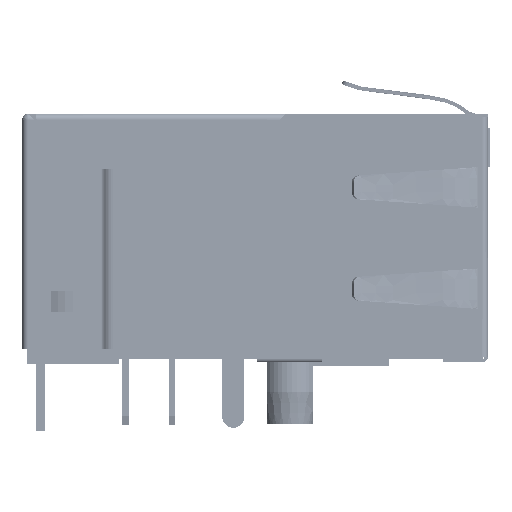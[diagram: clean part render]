
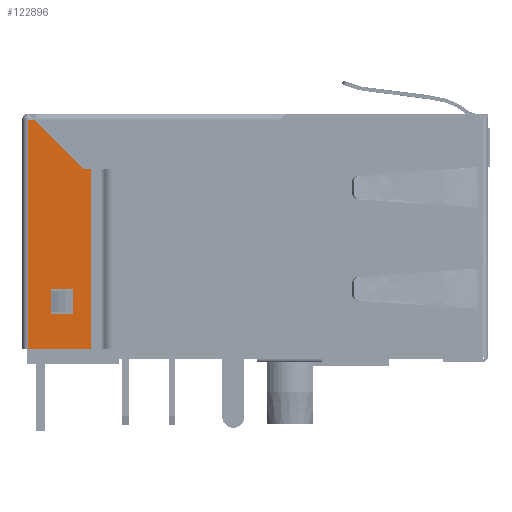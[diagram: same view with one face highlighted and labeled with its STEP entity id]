
A CAD part, left-side view. The second image highlights one B-rep face of the part: STEP entity #122896.
In plain terms, the highlighted planar face has unit normal (-1, 0, 0).
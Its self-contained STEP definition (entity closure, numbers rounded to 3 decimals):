
#116302=DIRECTION('',(0.,-1.,0.));
#116303=VECTOR('',#116302,0.359);
#116304=CARTESIAN_POINT('',(-15.25,-11.941,-6.25));
#116305=LINE('',#116304,#116303);
#116314=CARTESIAN_POINT('',(-15.25,-11.941,-6.25));
#116884=DIRECTION('',(0.,0.,1.));
#116885=VECTOR('',#116884,1.1);
#116886=CARTESIAN_POINT('',(-15.25,-9.9,3.05));
#116887=LINE('',#116886,#116885);
#116938=DIRECTION('',(0.,0.,1.));
#116939=VECTOR('',#116938,0.15);
#116940=CARTESIAN_POINT('',(-15.25,-9.9,4.15));
#116941=LINE('',#116940,#116939);
#116942=DIRECTION('',(0.,0.707,0.707));
#116943=VECTOR('',#116942,3.748);
#116944=CARTESIAN_POINT('',(-15.25,-11.941,-6.25));
#116945=LINE('',#116944,#116943);
#116946=DIRECTION('',(0.,1.,0.));
#116947=VECTOR('',#116946,0.391);
#116948=CARTESIAN_POINT('',(-15.25,-9.291,-3.6));
#116949=LINE('',#116948,#116947);
#116950=DIRECTION('',(0.,-1.,0.));
#116951=VECTOR('',#116950,3.4);
#116952=CARTESIAN_POINT('',(-15.25,-8.9,6.2));
#116953=LINE('',#116952,#116951);
#116958=DIRECTION('',(0.,0.,1.));
#116959=VECTOR('',#116958,12.45);
#116960=CARTESIAN_POINT('',(-15.25,-12.3,-6.25));
#116961=LINE('',#116960,#116959);
#116984=DIRECTION('',(0.,0.,-1.));
#116985=VECTOR('',#116984,9.8);
#116986=CARTESIAN_POINT('',(-15.25,-8.9,6.2));
#116987=LINE('',#116986,#116985);
#120314=DIRECTION('',(0.,-1.,0.));
#120315=VECTOR('',#120314,1.2);
#120316=CARTESIAN_POINT('',(-15.25,-9.9,4.3));
#120317=LINE('',#120316,#120315);
#120322=DIRECTION('',(0.,0.,-1.));
#120323=VECTOR('',#120322,1.4);
#120324=CARTESIAN_POINT('',(-15.25,-11.1,4.3));
#120325=LINE('',#120324,#120323);
#120330=DIRECTION('',(0.,1.,0.));
#120331=VECTOR('',#120330,1.2);
#120332=CARTESIAN_POINT('',(-15.25,-11.1,2.9));
#120333=LINE('',#120332,#120331);
#120342=DIRECTION('',(0.,0.,1.));
#120343=VECTOR('',#120342,0.15);
#120344=CARTESIAN_POINT('',(-15.25,-9.9,2.9));
#120345=LINE('',#120344,#120343);
#120964=CARTESIAN_POINT('',(-15.25,-12.3,-6.25));
#120965=VERTEX_POINT('',#120964);
#120966=VERTEX_POINT('',#116314);
#120972=CARTESIAN_POINT('',(-15.25,-9.291,-3.6));
#120973=VERTEX_POINT('',#120972);
#120988=CARTESIAN_POINT('',(-15.25,-12.3,6.2));
#120989=VERTEX_POINT('',#120988);
#120990=CARTESIAN_POINT('',(-15.25,-8.9,-3.6));
#120991=VERTEX_POINT('',#120990);
#120992=CARTESIAN_POINT('',(-15.25,-8.9,6.2));
#120993=VERTEX_POINT('',#120992);
#120994=CARTESIAN_POINT('',(-15.25,-9.9,2.9));
#120995=CARTESIAN_POINT('',(-15.25,-9.9,3.05));
#120996=VERTEX_POINT('',#120994);
#120997=VERTEX_POINT('',#120995);
#120998=CARTESIAN_POINT('',(-15.25,-11.1,2.9));
#120999=VERTEX_POINT('',#120998);
#121000=CARTESIAN_POINT('',(-15.25,-11.1,4.3));
#121001=VERTEX_POINT('',#121000);
#121002=CARTESIAN_POINT('',(-15.25,-9.9,4.3));
#121003=VERTEX_POINT('',#121002);
#121004=CARTESIAN_POINT('',(-15.25,-9.9,4.15));
#121005=VERTEX_POINT('',#121004);
#122867=CARTESIAN_POINT('',(-15.25,12.65,-6.6));
#122868=DIRECTION('',(-1.,0.,0.));
#122869=DIRECTION('',(0.,-1.,0.));
#122870=AXIS2_PLACEMENT_3D('',#122867,#122868,#122869);
#122871=PLANE('',#122870);
#122873=ORIENTED_EDGE('',*,*,#122872,.F.);
#122874=ORIENTED_EDGE('',*,*,#122042,.F.);
#122875=ORIENTED_EDGE('',*,*,#122062,.T.);
#122877=ORIENTED_EDGE('',*,*,#122876,.T.);
#122879=ORIENTED_EDGE('',*,*,#122878,.F.);
#122881=ORIENTED_EDGE('',*,*,#122880,.T.);
#122882=EDGE_LOOP('',(#122873,#122874,#122875,#122877,#122879,#122881));
#122883=FACE_OUTER_BOUND('',#122882,.F.);
#122885=ORIENTED_EDGE('',*,*,#122884,.F.);
#122887=ORIENTED_EDGE('',*,*,#122886,.F.);
#122889=ORIENTED_EDGE('',*,*,#122888,.F.);
#122891=ORIENTED_EDGE('',*,*,#122890,.F.);
#122892=ORIENTED_EDGE('',*,*,#122858,.F.);
#122893=ORIENTED_EDGE('',*,*,#122803,.F.);
#122894=EDGE_LOOP('',(#122885,#122887,#122889,#122891,#122892,#122893));
#122895=FACE_BOUND('',#122894,.F.);
#122042=EDGE_CURVE('',#120966,#120965,#116305,.T.);
#122062=EDGE_CURVE('',#120966,#120973,#116945,.T.);
#122803=EDGE_CURVE('',#120997,#121005,#116887,.T.);
#122858=EDGE_CURVE('',#121005,#121003,#116941,.T.);
#122872=EDGE_CURVE('',#120965,#120989,#116961,.T.);
#122876=EDGE_CURVE('',#120973,#120991,#116949,.T.);
#122878=EDGE_CURVE('',#120993,#120991,#116987,.T.);
#122880=EDGE_CURVE('',#120993,#120989,#116953,.T.);
#122884=EDGE_CURVE('',#120996,#120997,#120345,.T.);
#122886=EDGE_CURVE('',#120999,#120996,#120333,.T.);
#122888=EDGE_CURVE('',#121001,#120999,#120325,.T.);
#122890=EDGE_CURVE('',#121003,#121001,#120317,.T.);
#122896=ADVANCED_FACE('',(#122883,#122895),#122871,.T.);
